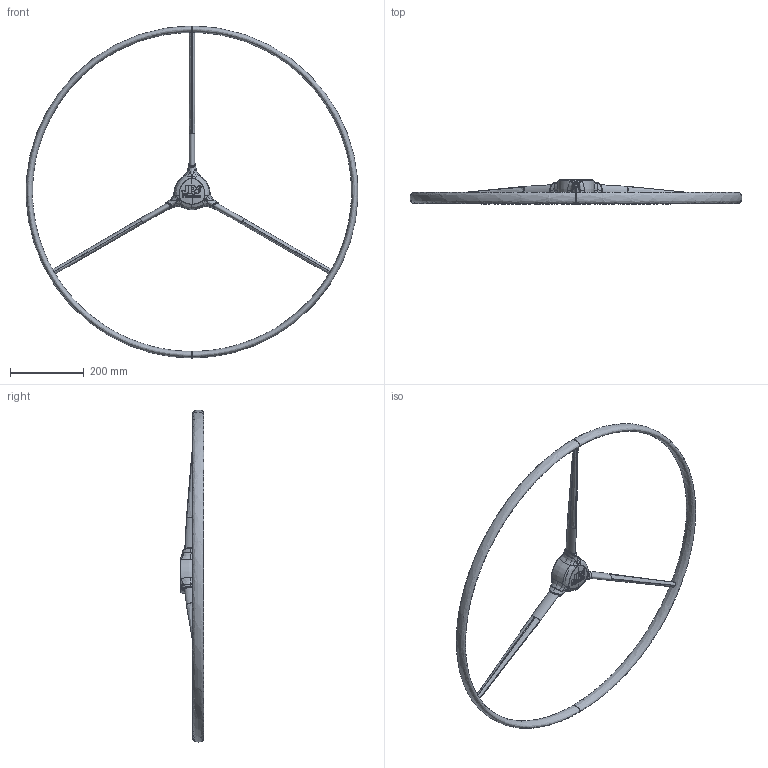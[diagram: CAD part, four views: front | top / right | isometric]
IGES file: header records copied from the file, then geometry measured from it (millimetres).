
Start section: Missler Software BP 521, 31674 Labege Cedex, France Tel   : +33 (0)5 61 00 03 00 Fax   : +33 (0)5 61 00 03 03 Email : sup.topsolid@topsolid.com
Global section: file name: 15HZ:\J\Jp3\Barre; native system: Rhinoceros ( Jul  7 2007 ); preprocessor: Trout Lake IGES 012 Jul  7 2007; date: 120223.135937; units: millimetre
Bounding box: 899.22 x 64.5 x 900 mm (x, y, z)
Surface area: 621947.2 mm2 (no closed solid volume)
Topology: 0 solids, 0 shells, 205 faces, 11776 edges, 11764 vertices
Faces by surface type: bspline 205
